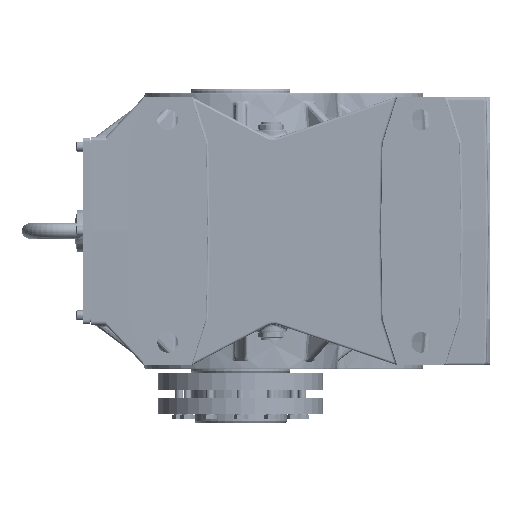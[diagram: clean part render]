
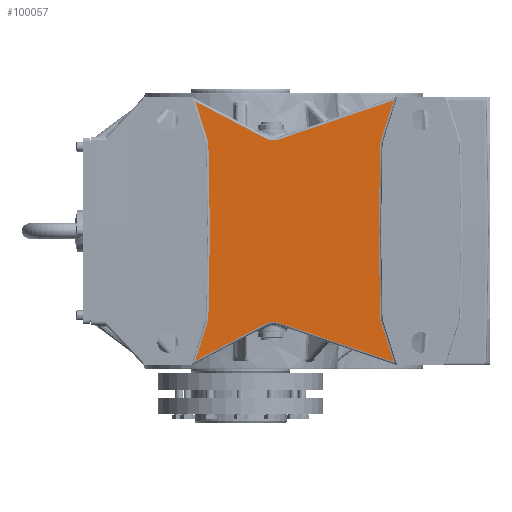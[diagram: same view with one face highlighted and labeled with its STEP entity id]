
A CAD part, left-side view. The second image highlights one B-rep face of the part: STEP entity #100057.
In plain terms, the highlighted planar face has unit normal (-1, 0, 0).
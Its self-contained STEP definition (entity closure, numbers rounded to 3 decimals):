
#71679=CARTESIAN_POINT('',(-225.0,39.992,0.));
#71680=VERTEX_POINT('',#71679);
#71681=CARTESIAN_POINT('',(-225.0,42.008,115.489));
#71682=VERTEX_POINT('',#71681);
#71683=CARTESIAN_POINT('',(-225.0,39.992,0.));
#71684=DIRECTION('',(0.0,0.017,1.));
#71685=VECTOR('',#71684,115.507);
#71686=LINE('',#71683,#71685);
#71687=EDGE_CURVE('',#71680,#71682,#71686,.T.);
#72128=CARTESIAN_POINT('',(-225.,-182.008,115.489));
#72129=VERTEX_POINT('',#72128);
#72137=CARTESIAN_POINT('',(-225.,-179.992,0.));
#72138=VERTEX_POINT('',#72137);
#72139=CARTESIAN_POINT('',(-225.,-182.008,115.489));
#72140=DIRECTION('',(0.0,0.017,-1.));
#72141=VECTOR('',#72140,115.507);
#72142=LINE('',#72139,#72141);
#72143=EDGE_CURVE('',#72129,#72138,#72142,.T.);
#99547=CARTESIAN_POINT('',(-225.,-199.348,170.247));
#99548=VERTEX_POINT('',#99547);
#99556=CARTESIAN_POINT('',(-225.,-199.348,170.247));
#99557=DIRECTION('',(0.0,0.302,-0.953));
#99558=VECTOR('',#99557,57.438);
#99559=LINE('',#99556,#99558);
#99560=EDGE_CURVE('',#99548,#72129,#99559,.T.);
#99691=CARTESIAN_POINT('',(-225.0,58.933,168.937));
#99692=VERTEX_POINT('',#99691);
#99725=CARTESIAN_POINT('',(-225.,-32.131,120.924));
#99726=VERTEX_POINT('',#99725);
#99727=CARTESIAN_POINT('',(-225.,58.933,168.937));
#99728=DIRECTION('',(0.,-0.885,-0.466));
#99729=VECTOR('',#99728,102.946);
#99730=LINE('',#99727,#99729);
#99731=EDGE_CURVE('',#99692,#99726,#99730,.T.);
#99799=CARTESIAN_POINT('',(-225.,-50.27,119.497));
#99800=VERTEX_POINT('',#99799);
#99801=CARTESIAN_POINT('',(-225.,-42.858,141.27));
#99802=DIRECTION('',(-1.0,0.,0.));
#99803=DIRECTION('',(0.,0.078,-0.997));
#99804=AXIS2_PLACEMENT_3D('',#99801,#99802,#99803);
#99805=CIRCLE('',#99804,23.);
#99806=EDGE_CURVE('',#99726,#99800,#99805,.T.);
#99833=CARTESIAN_POINT('',(-225.,-50.27,119.497));
#99834=DIRECTION('',(0.,-0.947,0.322));
#99835=VECTOR('',#99834,157.48);
#99836=LINE('',#99833,#99835);
#99837=EDGE_CURVE('',#99800,#99548,#99836,.T.);
#99947=CARTESIAN_POINT('',(-225.0,42.008,-115.489));
#99948=VERTEX_POINT('',#99947);
#99956=CARTESIAN_POINT('',(-225.0,42.008,-115.489));
#99957=DIRECTION('',(0.0,-0.017,1.));
#99958=VECTOR('',#99957,115.507);
#99959=LINE('',#99956,#99958);
#99960=EDGE_CURVE('',#99948,#71680,#99959,.T.);
#99979=CARTESIAN_POINT('',(-225.,-182.008,-115.489));
#99980=VERTEX_POINT('',#99979);
#99981=CARTESIAN_POINT('',(-225.,-179.992,0.));
#99982=DIRECTION('',(0.0,-0.017,-1.));
#99983=VECTOR('',#99982,115.507);
#99984=LINE('',#99981,#99983);
#99985=EDGE_CURVE('',#72138,#99980,#99984,.T.);
#99997=CARTESIAN_POINT('',(-225.,-320.,0.0));
#99998=DIRECTION('',(-1.0,0.0,0.0));
#99999=DIRECTION('',(0.0,0.0,1.0));
#100000=AXIS2_PLACEMENT_3D('',#99997,#99998,#99999);
#100001=PLANE('',#100000);
#100002=CARTESIAN_POINT('',(-225.,-199.348,-170.247));
#100003=VERTEX_POINT('',#100002);
#100004=CARTESIAN_POINT('',(-225.,-50.27,-119.497));
#100005=VERTEX_POINT('',#100004);
#100006=CARTESIAN_POINT('',(-225.,-199.348,-170.247));
#100007=DIRECTION('',(0.,0.947,0.322));
#100008=VECTOR('',#100007,157.48);
#100009=LINE('',#100006,#100008);
#100010=EDGE_CURVE('',#100003,#100005,#100009,.T.);
#100011=ORIENTED_EDGE('',*,*,#100010,.F.);
#100012=CARTESIAN_POINT('',(-225.,-182.008,-115.489));
#100013=DIRECTION('',(0.0,-0.302,-0.953));
#100014=VECTOR('',#100013,57.438);
#100015=LINE('',#100012,#100014);
#100016=EDGE_CURVE('',#99980,#100003,#100015,.T.);
#100017=ORIENTED_EDGE('',*,*,#100016,.F.);
#100018=ORIENTED_EDGE('',*,*,#99985,.F.);
#100019=ORIENTED_EDGE('',*,*,#72143,.F.);
#100020=ORIENTED_EDGE('',*,*,#99560,.F.);
#100021=ORIENTED_EDGE('',*,*,#99837,.F.);
#100022=ORIENTED_EDGE('',*,*,#99806,.F.);
#100023=ORIENTED_EDGE('',*,*,#99731,.F.);
#100024=CARTESIAN_POINT('',(-225.0,42.008,115.489));
#100025=DIRECTION('',(0.,0.302,0.953));
#100026=VECTOR('',#100025,56.064);
#100027=LINE('',#100024,#100026);
#100028=EDGE_CURVE('',#71682,#99692,#100027,.T.);
#100029=ORIENTED_EDGE('',*,*,#100028,.F.);
#100030=ORIENTED_EDGE('',*,*,#71687,.F.);
#100031=ORIENTED_EDGE('',*,*,#99960,.F.);
#100032=CARTESIAN_POINT('',(-225.0,58.933,-168.937));
#100033=VERTEX_POINT('',#100032);
#100034=CARTESIAN_POINT('',(-225.,58.933,-168.937));
#100035=DIRECTION('',(0.,-0.302,0.953));
#100036=VECTOR('',#100035,56.064);
#100037=LINE('',#100034,#100036);
#100038=EDGE_CURVE('',#100033,#99948,#100037,.T.);
#100039=ORIENTED_EDGE('',*,*,#100038,.F.);
#100040=CARTESIAN_POINT('',(-225.,-32.131,-120.924));
#100041=VERTEX_POINT('',#100040);
#100042=CARTESIAN_POINT('',(-225.,-32.131,-120.924));
#100043=DIRECTION('',(0.,0.885,-0.466));
#100044=VECTOR('',#100043,102.946);
#100045=LINE('',#100042,#100044);
#100046=EDGE_CURVE('',#100041,#100033,#100045,.T.);
#100047=ORIENTED_EDGE('',*,*,#100046,.F.);
#100048=CARTESIAN_POINT('',(-225.,-42.858,-141.27));
#100049=DIRECTION('',(-1.0,0.,0.));
#100050=DIRECTION('',(0.,0.078,0.997));
#100051=AXIS2_PLACEMENT_3D('',#100048,#100049,#100050);
#100052=CIRCLE('',#100051,23.);
#100053=EDGE_CURVE('',#100005,#100041,#100052,.T.);
#100054=ORIENTED_EDGE('',*,*,#100053,.F.);
#100055=EDGE_LOOP('',(#100011,#100017,#100018,#100019,#100020,#100021,#100022,#100023,#100029,#100030,#100031,#100039,#100047,#100054));
#100056=FACE_OUTER_BOUND('',#100055,.T.);
#100057=ADVANCED_FACE('',(#100056),#100001,.T.);
